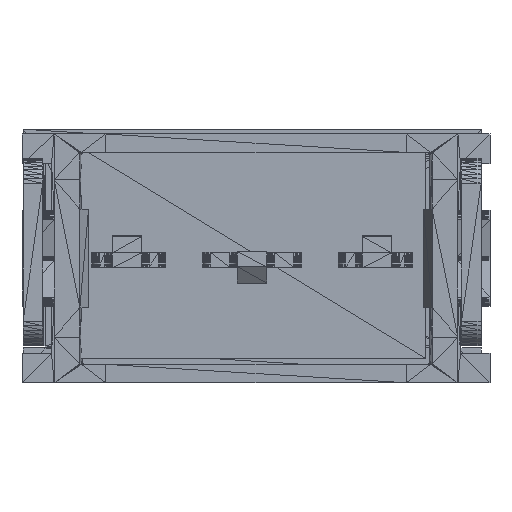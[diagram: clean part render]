
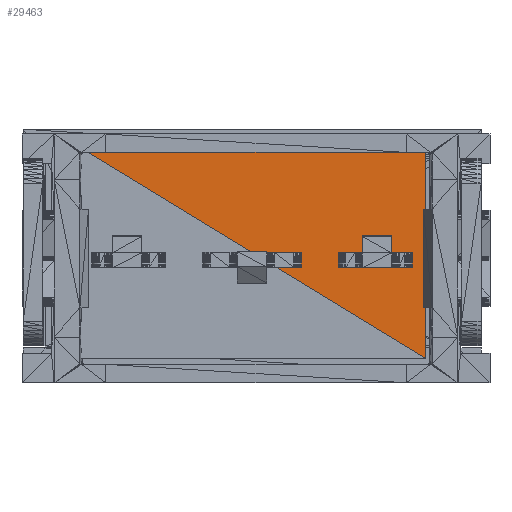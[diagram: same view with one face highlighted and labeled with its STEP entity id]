
A CAD part, front view. The second image highlights one B-rep face of the part: STEP entity #29463.
In plain terms, the highlighted planar face has unit normal (0, -1, 0).
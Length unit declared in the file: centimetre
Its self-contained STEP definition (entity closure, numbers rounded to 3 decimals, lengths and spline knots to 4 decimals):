
#105=DIRECTION('',(1.,0.,0.));
#953=DIRECTION('',(0.,0.,1.));
#1843=DIRECTION('',(-0.854,0.,0.521));
#1862=VECTOR('',#105,1.);
#2710=VECTOR('',#953,1.);
#3600=VECTOR('',#1843,1.);
#4166=CARTESIAN_POINT('',(0.2437,-0.304,-0.215));
#4167=CARTESIAN_POINT('',(-0.4613,-0.304,0.215));
#4169=CARTESIAN_POINT('',(0.2437,-0.304,0.215));
#5304=VERTEX_POINT('',#4166);
#5305=VERTEX_POINT('',#4167);
#5307=VERTEX_POINT('',#4169);
#7382=LINE('',#4166,#3600);
#7385=LINE('',#4166,#2710);
#7386=LINE('',#4167,#1862);
#10532=EDGE_CURVE('',#5304,#5305,#7382,.T.);
#10535=EDGE_CURVE('',#5304,#5307,#7385,.T.);
#10536=EDGE_CURVE('',#5305,#5307,#7386,.T.);
#13685=ORIENTED_EDGE('',*,*,#10535,.T.);
#16832=ORIENTED_EDGE('',*,*,#10532,.F.);
#16836=ORIENTED_EDGE('',*,*,#10536,.F.);
#19423=EDGE_LOOP('',(#16832,#13685,#16836));
#21431=FACE_OUTER_BOUND('',#19423,.T.);
#24372=DIRECTION('',(0.,-1.,0.));
#24373=AXIS2_PLACEMENT_3D('',#4167,#24372,#1843);
#27455=PLANE('',#24373);
#29463=ADVANCED_FACE('',(#21431),#27455,.T.);
